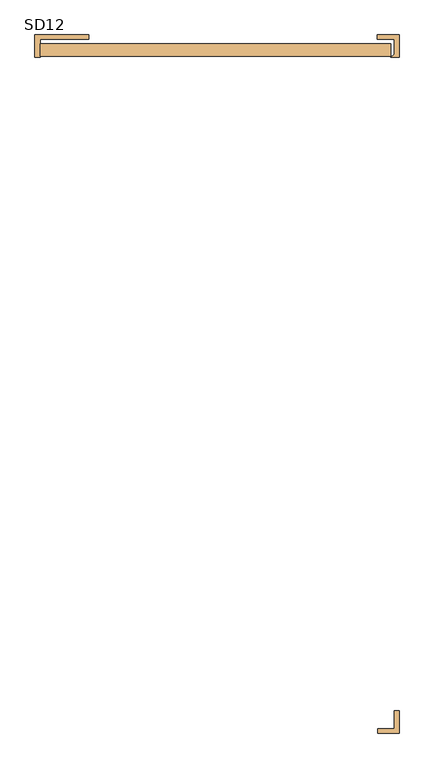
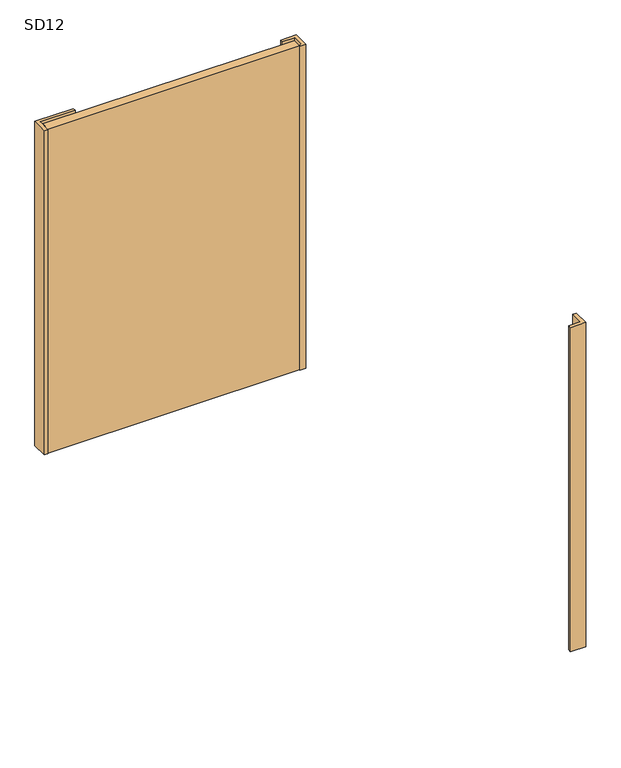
"""IFC4 building model written with IfcOpenShell, lengths in millimetres: door geometry, 営_随閉扉 B階段 2～4F : SD12."""

from ifc_helpers import new_model, si_unit, origin, origin_with_axes, place, context, project, spatial, polyline, outline, extrude, source, transform, mapped, element, save


def sd12_bd36843f(model_context):
    return source(origin(), model_context, "Body", "SweptSolid", [
        extrude(outline(polyline([(0.0, -198.0), (-1681.5788355, -198.0), (-1681.5788355, -138.0), (0.0, -138.0), (0.0, -198.0)])), origin_with_axes(), (0.0, 0.0, 1.0), 2290.0),
        extrude(outline(polyline([(-1682.5, -203.0), (-1707.5, -203.0), (-1707.5, -95.0), (-1450.0, -95.0), (-1450.0, -115.0), (-1682.5, -115.0), (-1682.5, -203.0)])), origin_with_axes(), (0.0, 0.0, 1.0), 2290.0),
        extrude(outline(polyline([(16.6, -115.4999668), (-65.0, -115.4999668), (-65.0, -94.9999564), (40.0, -94.9999528), (40.0, -202.9999668), (0.7372583, -202.9999668), (16.6, -187.1372251), (16.6, -115.4999668)])), origin_with_axes(), (0.0, 0.0, 1.0), 2290.0),
        extrude(outline(polyline([(16.6, -3424.5470689), (16.6, -3337.0470689), (40.0, -3337.0470689), (40.0, -3445.0470689), (-63.4, -3445.0470689), (-63.4, -3424.5470689), (16.6, -3424.5470689)])), origin_with_axes(), (0.0, 0.0, 1.0), 2290.0),
    ])


if __name__ == "__main__":
    model = new_model("IFC4")
    model_context = context("Model", 3, world=origin())
    ifc_project = project(units=[si_unit("LENGTHUNIT", "METRE", prefix="MILLI")], contexts=[model_context])
    site = spatial("IfcSite", under=ifc_project)
    building = spatial("IfcBuilding", under=site)
    placement = place(None, origin())
    sd12_shape = sd12_bd36843f(model_context)
    element("IfcDoor", 1, ObjectType="営_随閉扉 B階段 2～4F : SD12", at=placement, inside=building, context=model_context, shape_type="MappedRepresentation", body=[
        mapped(sd12_shape, transform((0.0, 0.0, 0.0), x_axis=(1.0, 0.0, 0.0), y_axis=(0.0, 1.0, 0.0), z_axis=(0.0, 0.0, 1.0))),
    ])
    save(model, "model.ifc")
